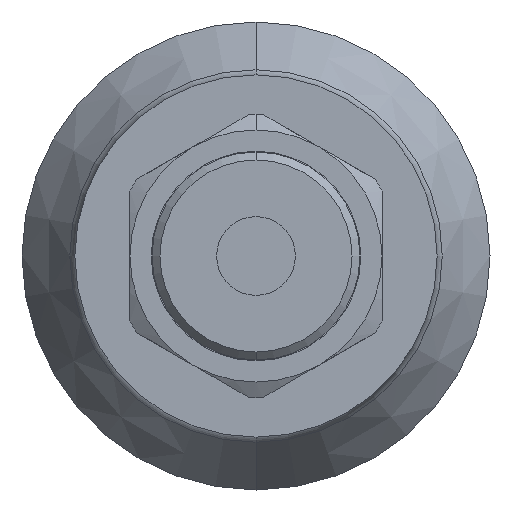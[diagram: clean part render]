
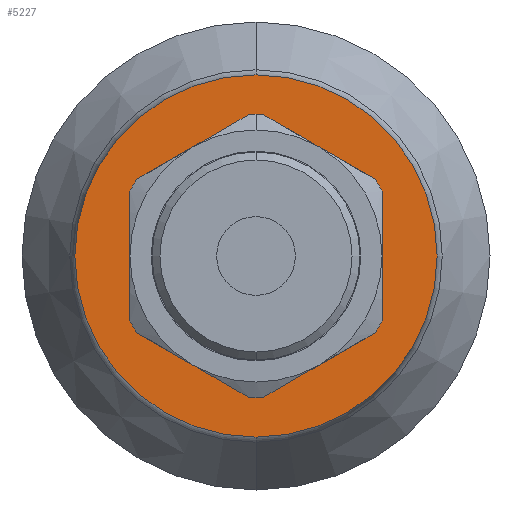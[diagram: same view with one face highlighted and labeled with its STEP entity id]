
A CAD part, front view. The second image highlights one B-rep face of the part: STEP entity #5227.
In plain terms, the highlighted planar face has unit normal (0, -1, 0).
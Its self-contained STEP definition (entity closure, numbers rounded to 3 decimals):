
#32 = CARTESIAN_POINT ( 'NONE',  ( 0., 19.8, 0. ) ) ;
#137 = ORIENTED_EDGE ( 'NONE', *, *, #3906, .F. ) ;
#177 = VERTEX_POINT ( 'NONE', #1716 ) ;
#194 = ORIENTED_EDGE ( 'NONE', *, *, #2752, .F. ) ;
#239 = EDGE_CURVE ( 'NONE', #3828, #177, #2621, .T. ) ;
#292 = CARTESIAN_POINT ( 'NONE',  ( 8., 19.8, 4.123 ) ) ;
#298 = DIRECTION ( 'NONE',  ( -0.866, 0., 0.5 ) ) ;
#401 = AXIS2_PLACEMENT_3D ( 'NONE', #3288, #4927, #2720 ) ;
#404 = LINE ( 'NONE', #5175, #2566 ) ;
#459 = DIRECTION ( 'NONE',  ( 0., -1., 0. ) ) ;
#475 = AXIS2_PLACEMENT_3D ( 'NONE', #2362, #3283, #5582 ) ;
#584 = CIRCLE ( 'NONE', #401, 9. ) ;
#613 = DIRECTION ( 'NONE',  ( 0., -1., 0. ) ) ;
#618 = DIRECTION ( 'NONE',  ( 0., -1., 0. ) ) ;
#706 = DIRECTION ( 'NONE',  ( 0., 0., -1. ) ) ;
#707 = EDGE_CURVE ( 'NONE', #2068, #843, #3295, .T. ) ;
#767 = ORIENTED_EDGE ( 'NONE', *, *, #1459, .F. ) ;
#768 = CIRCLE ( 'NONE', #475, 11.5 ) ;
#812 = LINE ( 'NONE', #2169, #974 ) ;
#843 = VERTEX_POINT ( 'NONE', #1620 ) ;
#899 = DIRECTION ( 'NONE',  ( 0., -1., 0. ) ) ;
#955 = DIRECTION ( 'NONE',  ( 0., 0., -1. ) ) ;
#974 = VECTOR ( 'NONE', #2527, 1000. ) ;
#975 = PLANE ( 'NONE',  #4784 ) ;
#1018 = DIRECTION ( 'NONE',  ( 0., 0., -1. ) ) ;
#1024 = EDGE_CURVE ( 'NONE', #3213, #4715, #584, .T. ) ;
#1038 = ORIENTED_EDGE ( 'NONE', *, *, #1024, .F. ) ;
#1055 = DIRECTION ( 'NONE',  ( 0., 0., -1. ) ) ;
#1058 = CIRCLE ( 'NONE', #4730, 11.5 ) ;
#1119 = CIRCLE ( 'NONE', #4054, 9. ) ;
#1144 = CARTESIAN_POINT ( 'NONE',  ( 0.429, 19.8, -8.99 ) ) ;
#1203 = DIRECTION ( 'NONE',  ( 0., -1., 0. ) ) ;
#1382 = EDGE_CURVE ( 'NONE', #5389, #1479, #1058, .T. ) ;
#1459 = EDGE_CURVE ( 'NONE', #4715, #5228, #812, .T. ) ;
#1479 = VERTEX_POINT ( 'NONE', #3860 ) ;
#1481 = CARTESIAN_POINT ( 'NONE',  ( -8., 19.8, 4.619 ) ) ;
#1490 = DIRECTION ( 'NONE',  ( 0., 0., -1. ) ) ;
#1560 = EDGE_CURVE ( 'NONE', #2033, #3213, #3998, .T. ) ;
#1604 = AXIS2_PLACEMENT_3D ( 'NONE', #4103, #3606, #4048 ) ;
#1620 = CARTESIAN_POINT ( 'NONE',  ( -0.429, 19.8, 8.99 ) ) ;
#1624 = CARTESIAN_POINT ( 'NONE',  ( 0., 19.8, -9. ) ) ;
#1673 = ORIENTED_EDGE ( 'NONE', *, *, #3009, .F. ) ;
#1716 = CARTESIAN_POINT ( 'NONE',  ( 7.571, 19.8, 4.867 ) ) ;
#1756 = CARTESIAN_POINT ( 'NONE',  ( 0., 19.8, 9.238 ) ) ;
#1784 = DIRECTION ( 'NONE',  ( 0., 0., -1. ) ) ;
#1786 = VERTEX_POINT ( 'NONE', #4028 ) ;
#1892 = ORIENTED_EDGE ( 'NONE', *, *, #1560, .F. ) ;
#1931 = FACE_OUTER_BOUND ( 'NONE', #1946, .T. ) ;
#1946 = EDGE_LOOP ( 'NONE', ( #3133, #2932 ) ) ;
#1986 = CARTESIAN_POINT ( 'NONE',  ( 0., 19.8, 0. ) ) ;
#2029 = CARTESIAN_POINT ( 'NONE',  ( -0.429, 19.8, -8.99 ) ) ;
#2033 = VERTEX_POINT ( 'NONE', #2029 ) ;
#2060 = VERTEX_POINT ( 'NONE', #3709 ) ;
#2068 = VERTEX_POINT ( 'NONE', #3300 ) ;
#2169 = CARTESIAN_POINT ( 'NONE',  ( 0., 19.8, -9.238 ) ) ;
#2206 = VECTOR ( 'NONE', #2950, 1000. ) ;
#2233 = EDGE_CURVE ( 'NONE', #2060, #3050, #4693, .T. ) ;
#2308 = VERTEX_POINT ( 'NONE', #3627 ) ;
#2346 = FACE_BOUND ( 'NONE', #5209, .T. ) ;
#2362 = CARTESIAN_POINT ( 'NONE',  ( 0., 19.8, 0. ) ) ;
#2527 = DIRECTION ( 'NONE',  ( 0.866, 0., 0.5 ) ) ;
#2566 = VECTOR ( 'NONE', #3504, 1000. ) ;
#2621 = CIRCLE ( 'NONE', #3749, 9. ) ;
#2661 = CARTESIAN_POINT ( 'NONE',  ( 0., 19.8, 0. ) ) ;
#2720 = DIRECTION ( 'NONE',  ( 0., 0., -1. ) ) ;
#2752 = EDGE_CURVE ( 'NONE', #1786, #3168, #1119, .T. ) ;
#2802 = CARTESIAN_POINT ( 'NONE',  ( -7.571, 19.8, -4.867 ) ) ;
#2816 = CARTESIAN_POINT ( 'NONE',  ( 0., 19.8, 0. ) ) ;
#2832 = ORIENTED_EDGE ( 'NONE', *, *, #239, .F. ) ;
#2834 = ORIENTED_EDGE ( 'NONE', *, *, #3082, .F. ) ;
#2928 = LINE ( 'NONE', #1481, #4802 ) ;
#2932 = ORIENTED_EDGE ( 'NONE', *, *, #1382, .T. ) ;
#2950 = DIRECTION ( 'NONE',  ( 0.866, 0., -0.5 ) ) ;
#2958 = ORIENTED_EDGE ( 'NONE', *, *, #707, .F. ) ;
#3009 = EDGE_CURVE ( 'NONE', #3168, #2033, #4827, .T. ) ;
#3050 = VERTEX_POINT ( 'NONE', #5625 ) ;
#3072 = DIRECTION ( 'NONE',  ( -0.866, 0., -0.5 ) ) ;
#3082 = EDGE_CURVE ( 'NONE', #3050, #1786, #2928, .T. ) ;
#3133 = ORIENTED_EDGE ( 'NONE', *, *, #3760, .T. ) ;
#3149 = CARTESIAN_POINT ( 'NONE',  ( 0., 19.8, 0. ) ) ;
#3168 = VERTEX_POINT ( 'NONE', #2802 ) ;
#3213 = VERTEX_POINT ( 'NONE', #1624 ) ;
#3283 = DIRECTION ( 'NONE',  ( 0., -1., 0. ) ) ;
#3288 = CARTESIAN_POINT ( 'NONE',  ( 0., 19.8, 0. ) ) ;
#3295 = CIRCLE ( 'NONE', #4029, 9. ) ;
#3300 = CARTESIAN_POINT ( 'NONE',  ( 0.429, 19.8, 8.99 ) ) ;
#3325 = CARTESIAN_POINT ( 'NONE',  ( 0., 19.8, -11.5 ) ) ;
#3504 = DIRECTION ( 'NONE',  ( 0., 0., 1. ) ) ;
#3606 = DIRECTION ( 'NONE',  ( 0., -1., 0. ) ) ;
#3627 = CARTESIAN_POINT ( 'NONE',  ( 8., 19.8, -4.123 ) ) ;
#3687 = ORIENTED_EDGE ( 'NONE', *, *, #3919, .F. ) ;
#3702 = CARTESIAN_POINT ( 'NONE',  ( 0., 19.8, 0. ) ) ;
#3709 = CARTESIAN_POINT ( 'NONE',  ( -7.571, 19.8, 4.867 ) ) ;
#3749 = AXIS2_PLACEMENT_3D ( 'NONE', #2816, #618, #1055 ) ;
#3760 = EDGE_CURVE ( 'NONE', #1479, #5389, #768, .T. ) ;
#3828 = VERTEX_POINT ( 'NONE', #292 ) ;
#3860 = CARTESIAN_POINT ( 'NONE',  ( 0., 19.8, 11.5 ) ) ;
#3906 = EDGE_CURVE ( 'NONE', #843, #2060, #4721, .T. ) ;
#3919 = EDGE_CURVE ( 'NONE', #2308, #3828, #404, .T. ) ;
#3998 = CIRCLE ( 'NONE', #1604, 9. ) ;
#4028 = CARTESIAN_POINT ( 'NONE',  ( -8., 19.8, -4.123 ) ) ;
#4029 = AXIS2_PLACEMENT_3D ( 'NONE', #3149, #5679, #955 ) ;
#4037 = CARTESIAN_POINT ( 'NONE',  ( 7.571, 19.8, -4.867 ) ) ;
#4048 = DIRECTION ( 'NONE',  ( 0., 0., -1. ) ) ;
#4054 = AXIS2_PLACEMENT_3D ( 'NONE', #32, #459, #1784 ) ;
#4067 = CARTESIAN_POINT ( 'NONE',  ( 0., 19.8, 0. ) ) ;
#4103 = CARTESIAN_POINT ( 'NONE',  ( 0., 19.8, 0. ) ) ;
#4270 = ORIENTED_EDGE ( 'NONE', *, *, #5536, .F. ) ;
#4276 = ORIENTED_EDGE ( 'NONE', *, *, #2233, .F. ) ;
#4330 = VECTOR ( 'NONE', #3072, 1000. ) ;
#4489 = CIRCLE ( 'NONE', #5219, 9. ) ;
#4499 = DIRECTION ( 'NONE',  ( 0., 0., -1. ) ) ;
#4577 = CARTESIAN_POINT ( 'NONE',  ( 8., 19.8, 4.619 ) ) ;
#4667 = LINE ( 'NONE', #4577, #5129 ) ;
#4693 = CIRCLE ( 'NONE', #5143, 9. ) ;
#4715 = VERTEX_POINT ( 'NONE', #1144 ) ;
#4721 = LINE ( 'NONE', #1756, #4330 ) ;
#4730 = AXIS2_PLACEMENT_3D ( 'NONE', #1986, #1203, #5061 ) ;
#4770 = CARTESIAN_POINT ( 'NONE',  ( -8., 19.8, -4.619 ) ) ;
#4784 = AXIS2_PLACEMENT_3D ( 'NONE', #3702, #4904, #1490 ) ;
#4802 = VECTOR ( 'NONE', #706, 1000. ) ;
#4827 = LINE ( 'NONE', #4770, #2206 ) ;
#4904 = DIRECTION ( 'NONE',  ( 0., -1., 0. ) ) ;
#4927 = DIRECTION ( 'NONE',  ( 0., -1., 0. ) ) ;
#5061 = DIRECTION ( 'NONE',  ( 0., 0., -1. ) ) ;
#5129 = VECTOR ( 'NONE', #298, 1000. ) ;
#5143 = AXIS2_PLACEMENT_3D ( 'NONE', #4067, #899, #4499 ) ;
#5175 = CARTESIAN_POINT ( 'NONE',  ( 8., 19.8, -4.619 ) ) ;
#5209 = EDGE_LOOP ( 'NONE', ( #5513, #2832, #3687, #4270, #767, #1038, #1892, #1673, #194, #2834, #4276, #137, #2958 ) ) ;
#5219 = AXIS2_PLACEMENT_3D ( 'NONE', #2661, #613, #1018 ) ;
#5227 = ADVANCED_FACE ( 'NONE', ( #2346, #1931 ), #975, .T. ) ;
#5228 = VERTEX_POINT ( 'NONE', #4037 ) ;
#5389 = VERTEX_POINT ( 'NONE', #3325 ) ;
#5513 = ORIENTED_EDGE ( 'NONE', *, *, #5589, .F. ) ;
#5536 = EDGE_CURVE ( 'NONE', #5228, #2308, #4489, .T. ) ;
#5582 = DIRECTION ( 'NONE',  ( 0., 0., -1. ) ) ;
#5589 = EDGE_CURVE ( 'NONE', #177, #2068, #4667, .T. ) ;
#5625 = CARTESIAN_POINT ( 'NONE',  ( -8., 19.8, 4.123 ) ) ;
#5679 = DIRECTION ( 'NONE',  ( 0., -1., 0. ) ) ;
